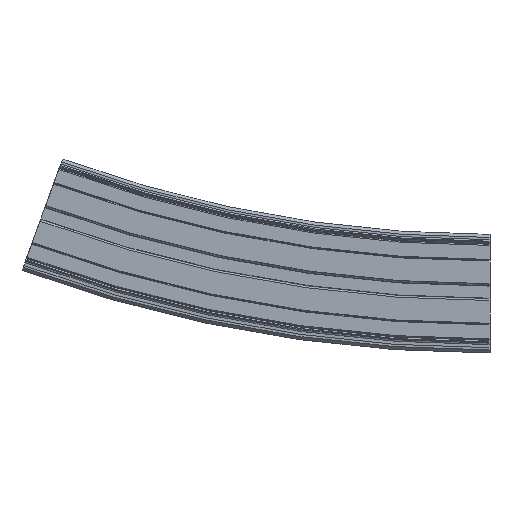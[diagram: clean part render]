
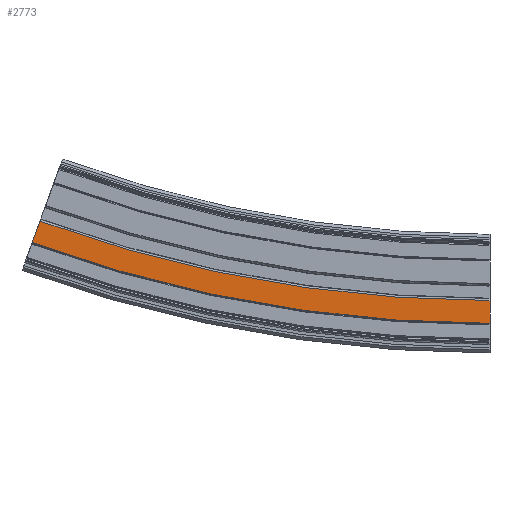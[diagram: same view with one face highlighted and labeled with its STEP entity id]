
A CAD part, left-side view. The second image highlights one B-rep face of the part: STEP entity #2773.
In plain terms, the highlighted planar face has unit normal (-1, 0, 0).
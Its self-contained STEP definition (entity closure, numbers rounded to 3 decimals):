
#267=CIRCLE('',#3020,865.5);
#268=CIRCLE('',#3022,880.5);
#442=FACE_OUTER_BOUND('',#596,.T.);
#596=EDGE_LOOP('',(#2171,#2172,#2173,#2174));
#773=LINE('',#9181,#979);
#774=LINE('',#9183,#980);
#979=VECTOR('',#3622,10.);
#980=VECTOR('',#3623,10.);
#1235=VERTEX_POINT('',#9174);
#1236=VERTEX_POINT('',#9176);
#1237=VERTEX_POINT('',#9180);
#1238=VERTEX_POINT('',#9182);
#1602=EDGE_CURVE('',#1235,#1236,#267,.T.);
#1603=EDGE_CURVE('',#1237,#1235,#773,.T.);
#1604=EDGE_CURVE('',#1238,#1236,#774,.T.);
#1605=EDGE_CURVE('',#1237,#1238,#268,.T.);
#2171=ORIENTED_EDGE('',*,*,#1603,.T.);
#2172=ORIENTED_EDGE('',*,*,#1602,.T.);
#2173=ORIENTED_EDGE('',*,*,#1604,.F.);
#2174=ORIENTED_EDGE('',*,*,#1605,.F.);
#2663=PLANE('',#3021);
#2773=ADVANCED_FACE('',(#442),#2663,.T.);
#3020=AXIS2_PLACEMENT_3D('',#9178,#3618,#3619);
#3021=AXIS2_PLACEMENT_3D('',#9179,#3620,#3621);
#3022=AXIS2_PLACEMENT_3D('',#9184,#3624,#3625);
#3618=DIRECTION('center_axis',(1.,0.,0.));
#3619=DIRECTION('ref_axis',(0.,0.,
-1.));
#3620=DIRECTION('center_axis',(-1.,0.,0.));
#3621=DIRECTION('ref_axis',(0.,0.,1.));
#3622=DIRECTION('',(0.,0.,1.));
#3623=DIRECTION('',(0.,-0.342,0.94));
#3624=DIRECTION('center_axis',(1.,0.,0.));
#3625=DIRECTION('ref_axis',(0.,0.,
-1.));
#9174=CARTESIAN_POINT('',(-32.,0.,-5.5));
#9176=CARTESIAN_POINT('',(-32.,296.018,46.696));
#9178=CARTESIAN_POINT('Origin',(-32.,0.,
860.));
#9179=CARTESIAN_POINT('Origin',(-32.,0.,-20.5));
#9180=CARTESIAN_POINT('',(-32.,0.,-20.5));
#9181=CARTESIAN_POINT('',(-32.,0.,-20.5));
#9182=CARTESIAN_POINT('',(-32.,301.149,32.601));
#9183=CARTESIAN_POINT('',(-32.,301.149,32.601));
#9184=CARTESIAN_POINT('Origin',(-32.,0.,
860.));
